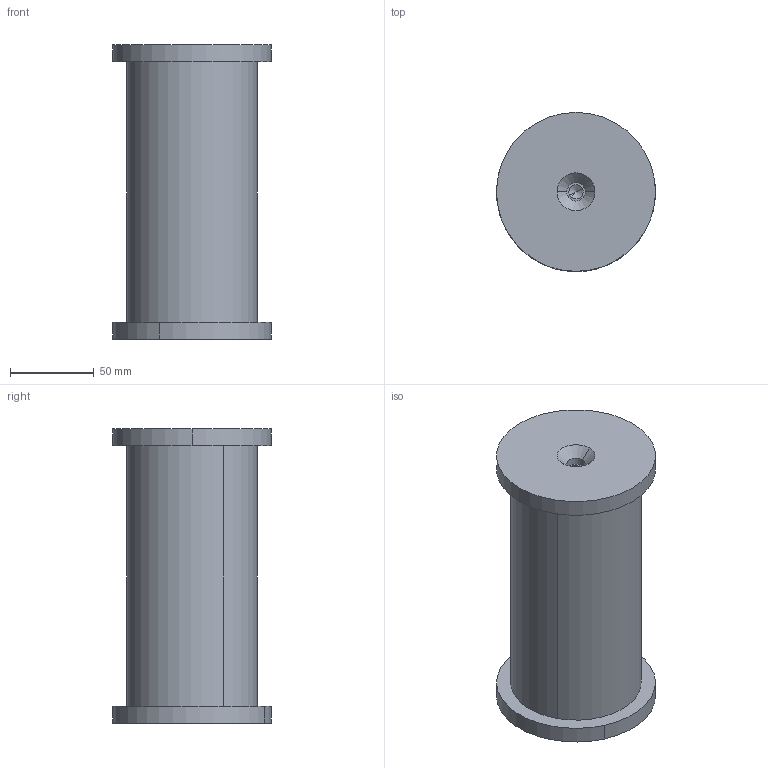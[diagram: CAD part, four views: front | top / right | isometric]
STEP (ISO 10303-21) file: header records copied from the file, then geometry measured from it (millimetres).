
FILE_DESCRIPTION (( 'STEP AP203' ), '1' );
FILE_NAME ('Bolzen Scheibe A M76.STEP', '2018-02-21T14:24:22', ( 'install' ), ( 'Hewlett-Packard Company' ), 'SwSTEP 2.0', 'SolidWorks 2017', '' );
FILE_SCHEMA (( 'CONFIG_CONTROL_DESIGN' ));
Length unit declared in the file: millimetre
Products named in the file (3): Bolzen ScheibeVarA_generisch_M76; Bolzen Scheibe A M76; Scheibe_M76
Assembly tree (3 placements, depth 2):
  Bolzen Scheibe A M76
    Scheibe_M76  x2
    Bolzen ScheibeVarA_generisch_M76
Bounding box: 95 x 95 x 176 mm (x, y, z)
Volume: 880718.4 mm3; surface area: 83638.9 mm2
Topology: 3 solids, 3 shells, 28 faces, 58 edges, 34 vertices
Faces by surface type: cylinder 14, cone 8, plane 6
Entity records: 853 total; most frequent: DIRECTION 112, CARTESIAN_POINT 88, ORIENTED_EDGE 76, AXIS2_PLACEMENT_3D 48, EDGE_CURVE 38, PERSON_AND_ORGANIZATION 27, EDGE_LOOP 24, VERTEX_POINT 24
